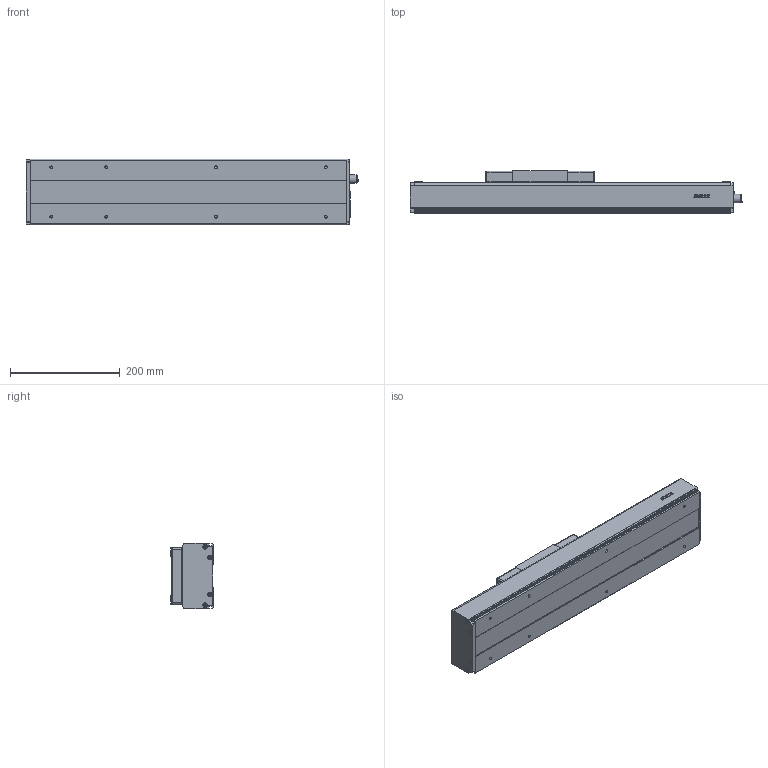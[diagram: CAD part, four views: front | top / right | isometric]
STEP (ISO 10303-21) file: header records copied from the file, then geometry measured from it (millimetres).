
FILE_DESCRIPTION(/* description */ (''),/* implementation_level */ '2;1');
FILE_NAME(/* name */ 'D:\混合母檔20191031\混和母檔\混和母檔\bin\Debug\Download\3D\KS120-10C-100AFI\KS120-10C-100AFI.stp',/* time_stamp */ '2019-11-04T15:09:02+08:00',/* author */ ('user'),/* organization */ (''),/* preprocessor_version */ 'ST-DEVELOPER v16.13',/* originating_system */ 'Autodesk Inventor 2018',/* authorisation */ '');
FILE_SCHEMA (('AUTOMOTIVE_DESIGN { 1 0 10303 214 3 1 1 }'));
Length unit declared in the file: millimetre
Products named in the file (3): KS120-10C-100AFI; KS120-FI; KS120-SL
Assembly tree (2 placements, depth 2):
  KS120-10C-100AFI
    KS120-FI
    KS120-SL
Bounding box: 604.5 x 77 x 120 mm (x, y, z)
Volume: 1657636.1 mm3; surface area: 512099.7 mm2
Topology: 4 solids, 11 shells, 987 faces, 2500 edges, 1603 vertices
Faces by surface type: plane 575, cylinder 182, bspline 136, cone 76, torus 14, sphere 4
Full cylindrical faces by diameter (mm): 2.459 x6, 3.242 x4, 4 x32, 4.3 x4, 4.5 x12, 4.917 x8, 6 x6, 7 x4, 8 x9, 8.4 x12, 10.437 x1, 12 x2, 14 x1, 15 x1, 15.538 x1, 19 x1, 28 x1, 30 x1
Entity records: 32532 total; most frequent: CARTESIAN_POINT 10520, ORIENTED_EDGE 4472, DIRECTION 4100, EDGE_CURVE 2234, VERTEX_POINT 1525, LINE 1496, VECTOR 1496, AXIS2_PLACEMENT_3D 1302
